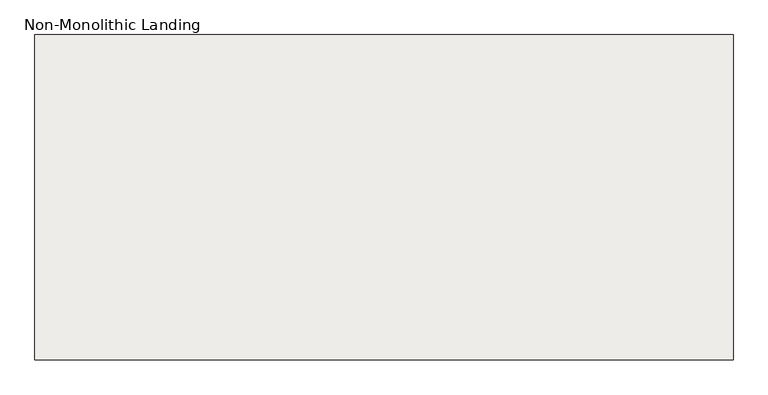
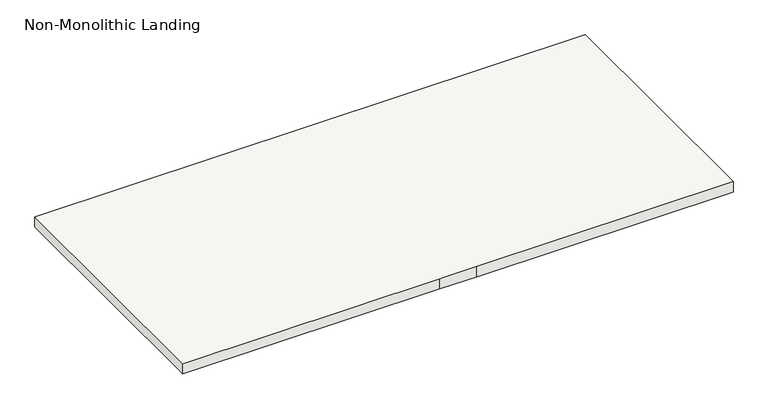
"""IFC4 building model written with IfcOpenShell, lengths in millimetres: slab geometry, Non-Monolithic Landing."""

from ifc_helpers import new_model, si_unit, frame, origin, place, context, project, spatial, polyline, outline, extrude, source, transform, mapped, element, save


def non_monolithic_landing_68e59602(model_context):
    return source(origin(), model_context, "Body", "SweptSolid", [
        extrude(outline(polyline([(24667.9084875, 9937.8006), (24667.9084875, 11157.0006), (27283.4237309, 11157.0006), (27283.4237309, 9937.8006), (26064.2237309, 9937.8006), (25887.1084875, 9937.8006), (24667.9084875, 9937.8006)])), frame((0.0, 0.0, 1371.6), z_axis=(0.0, 0.0, 1.0), x_axis=(1.0, 0.0, 0.0)), (0.0, 0.0, 1.0), 50.8),
    ])


if __name__ == "__main__":
    model = new_model("IFC4")
    model_context = context("Model", 3, world=origin())
    ifc_project = project(units=[si_unit("LENGTHUNIT", "METRE", prefix="MILLI")], contexts=[model_context])
    site = spatial("IfcSite", under=ifc_project)
    building = spatial("IfcBuilding", under=site)
    placement = place(None, origin())
    non_monolithic_landing_shape = non_monolithic_landing_68e59602(model_context)
    element("IfcSlab", 1, ObjectType="Non-Monolithic Landing", at=placement, inside=building, context=model_context, shape_type="MappedRepresentation", body=[
        mapped(non_monolithic_landing_shape, transform((0.0, 0.0, 0.0), x_axis=(1.0, 0.0, 0.0), y_axis=(0.0, 1.0, 0.0), z_axis=(0.0, 0.0, 1.0))),
    ])
    save(model, "model.ifc")
